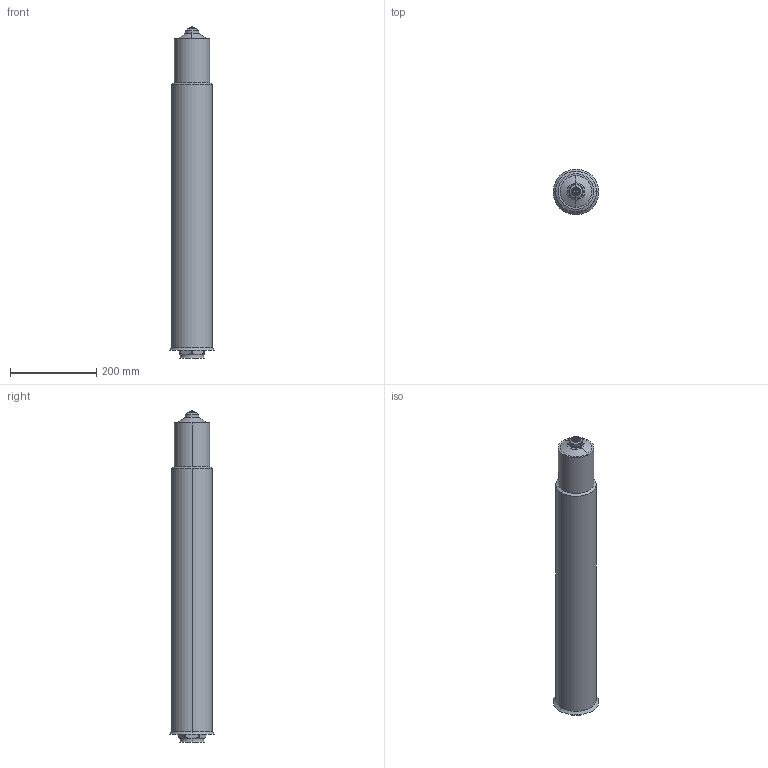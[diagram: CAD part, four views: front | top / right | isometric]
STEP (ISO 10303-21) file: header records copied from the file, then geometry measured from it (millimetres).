
FILE_DESCRIPTION (( 'STEP AP214' ), '1' );
FILE_NAME ('T24_OPEN_750_HELICAL_82.STEP', '2009-05-11T13:45:05', ( 'Synventive Molding Solutions' ), ( 'Synventive Molding Solutions' ), 'SwSTEP 2.0', 'SolidWorks 2008', '' );
FILE_SCHEMA (( 'AUTOMOTIVE_DESIGN' ));
Length unit declared in the file: millimetre
Products named in the file (1): T24_OPEN_750_HELICAL_82
Bounding box: 106 x 106 x 768 mm (x, y, z)
Volume: 6887976.6 mm3; surface area: 406523.5 mm2
Topology: 2 solids, 2 shells, 357 faces, 961 edges, 615 vertices
Faces by surface type: cylinder 127, plane 109, bspline 52, torus 38, cone 31
Entity records: 33973 total; most frequent: CARTESIAN_POINT 21783, ORIENTED_EDGE 1922, DIRECTION 1546, EDGE_CURVE 961, VERTEX_POINT 615, AXIS2_PLACEMENT_3D 587, EDGE_LOOP 374, VECTOR 372
